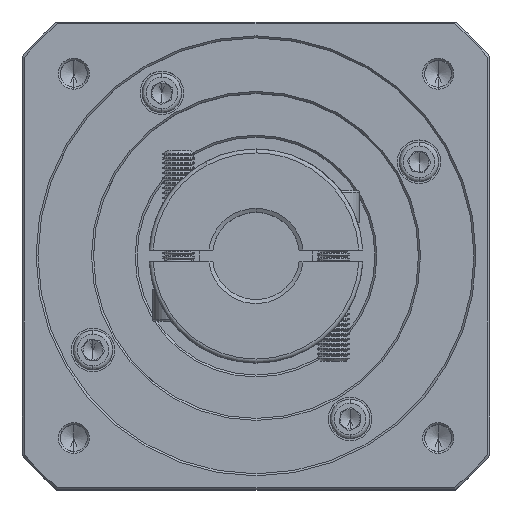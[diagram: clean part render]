
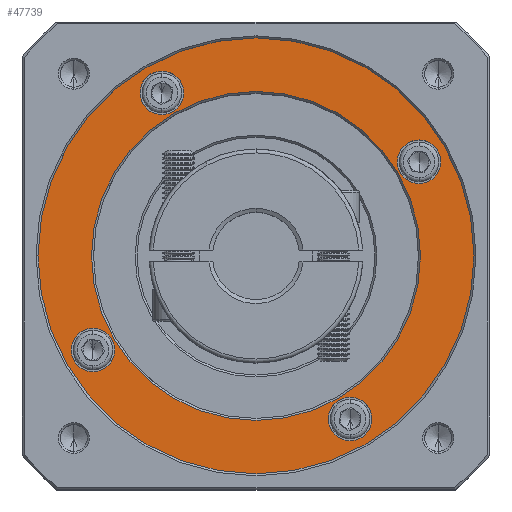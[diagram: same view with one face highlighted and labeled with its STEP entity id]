
A CAD part, top view. The second image highlights one B-rep face of the part: STEP entity #47739.
In plain terms, the highlighted planar face has unit normal (0, 0, 1).
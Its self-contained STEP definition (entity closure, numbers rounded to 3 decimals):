
#1832 = VERTEX_POINT ( 'NONE', #127657 ) ;
#1885 = CIRCLE ( 'NONE', #11369, 41.5 ) ;
#1896 = EDGE_CURVE ( 'NONE', #49550, #48030, #40612, .T. ) ;
#3053 = ORIENTED_EDGE ( 'NONE', *, *, #115229, .T. ) ;
#3126 = DIRECTION ( 'NONE',  ( 0., 1., 0. ) ) ;
#7497 = CARTESIAN_POINT ( 'NONE',  ( 16.365, 46.224, 8.74 ) ) ;
#9457 = DIRECTION ( 'NONE',  ( 1., 0., 0. ) ) ;
#9610 = FACE_BOUND ( 'NONE', #57726, .T. ) ;
#9915 = DIRECTION ( 'NONE',  ( 0., 0., -1. ) ) ;
#11369 = AXIS2_PLACEMENT_3D ( 'NONE', #131863, #27966, #70354 ) ;
#12692 = DIRECTION ( 'NONE',  ( 0., 1., 0. ) ) ;
#16357 = DIRECTION ( 'NONE',  ( 0., 0., -1. ) ) ;
#16807 = CARTESIAN_POINT ( 'NONE',  ( 98.637, 82.724, 8.74 ) ) ;
#17985 = DIRECTION ( 'NONE',  ( 0., 0., -1. ) ) ;
#20602 = EDGE_LOOP ( 'NONE', ( #28987, #3053 ) ) ;
#22153 = CIRCLE ( 'NONE', #113852, 5.5 ) ;
#23383 = DIRECTION ( 'NONE',  ( 0., 0., -1. ) ) ;
#26486 = DIRECTION ( 'NONE',  ( 0., 0., 1. ) ) ;
#27966 = DIRECTION ( 'NONE',  ( 0., 0., -1. ) ) ;
#28395 = EDGE_CURVE ( 'NONE', #74007, #100775, #76260, .T. ) ;
#28616 = EDGE_CURVE ( 'NONE', #120097, #98239, #29553, .T. ) ;
#28987 = ORIENTED_EDGE ( 'NONE', *, *, #84632, .T. ) ;
#29274 = DIRECTION ( 'NONE',  ( 0., 0., 1. ) ) ;
#29553 = CIRCLE ( 'NONE', #83461, 5.5 ) ;
#29643 = CARTESIAN_POINT ( 'NONE',  ( 57.501, 64.474, 8.74 ) ) ;
#30207 = CARTESIAN_POINT ( 'NONE',  ( 81.251, 23.338, 8.74 ) ) ;
#31239 = ORIENTED_EDGE ( 'NONE', *, *, #28616, .T. ) ;
#31730 = AXIS2_PLACEMENT_3D ( 'NONE', #129102, #26486, #57190 ) ;
#32342 = EDGE_CURVE ( 'NONE', #100775, #74007, #100997, .T. ) ;
#35321 = FACE_OUTER_BOUND ( 'NONE', #20602, .T. ) ;
#36903 = FACE_BOUND ( 'NONE', #82284, .T. ) ;
#37004 = DIRECTION ( 'NONE',  ( 0., 1., 0. ) ) ;
#38889 = ORIENTED_EDGE ( 'NONE', *, *, #1896, .T. ) ;
#38930 = EDGE_CURVE ( 'NONE', #45258, #60037, #58104, .T. ) ;
#39195 = DIRECTION ( 'NONE',  ( 0., 1., 0. ) ) ;
#40612 = CIRCLE ( 'NONE', #117518, 5.5 ) ;
#42281 = EDGE_LOOP ( 'NONE', ( #96725, #38889 ) ) ;
#42601 = CARTESIAN_POINT ( 'NONE',  ( 57.501, 119.474, 8.74 ) ) ;
#43319 = DIRECTION ( 'NONE',  ( 0., 1., 0. ) ) ;
#43459 = CARTESIAN_POINT ( 'NONE',  ( 81.251, 17.838, 8.74 ) ) ;
#45258 = VERTEX_POINT ( 'NONE', #133411 ) ;
#45897 = CIRCLE ( 'NONE', #31730, 55. ) ;
#47160 = CARTESIAN_POINT ( 'NONE',  ( 16.365, 40.724, 8.74 ) ) ;
#47739 = ADVANCED_FACE ( 'NONE', ( #35321, #9610, #73958, #88416, #72453, #36903 ), #73293, .T. ) ;
#48030 = VERTEX_POINT ( 'NONE', #7497 ) ;
#49550 = VERTEX_POINT ( 'NONE', #125628 ) ;
#51766 = ORIENTED_EDGE ( 'NONE', *, *, #102289, .T. ) ;
#53607 = CARTESIAN_POINT ( 'NONE',  ( 33.751, 105.611, 8.74 ) ) ;
#53934 = CARTESIAN_POINT ( 'NONE',  ( 57.501, 64.474, 8.74 ) ) ;
#57190 = DIRECTION ( 'NONE',  ( 0., 1., 0. ) ) ;
#57726 = EDGE_LOOP ( 'NONE', ( #87504, #69693 ) ) ;
#58104 = CIRCLE ( 'NONE', #131020, 41.5 ) ;
#60037 = VERTEX_POINT ( 'NONE', #74129 ) ;
#60101 = ORIENTED_EDGE ( 'NONE', *, *, #131149, .T. ) ;
#64367 = ORIENTED_EDGE ( 'NONE', *, *, #32342, .T. ) ;
#65363 = DIRECTION ( 'NONE',  ( 0., 0., -1. ) ) ;
#65724 = AXIS2_PLACEMENT_3D ( 'NONE', #79585, #17985, #100289 ) ;
#68751 = DIRECTION ( 'NONE',  ( 0., 1., 0. ) ) ;
#68768 = CARTESIAN_POINT ( 'NONE',  ( 33.751, 100.111, 8.74 ) ) ;
#69693 = ORIENTED_EDGE ( 'NONE', *, *, #116285, .T. ) ;
#70354 = DIRECTION ( 'NONE',  ( 1., 0., 0. ) ) ;
#72453 = FACE_BOUND ( 'NONE', #42281, .T. ) ;
#73293 = PLANE ( 'NONE',  #115813 ) ;
#73460 = CARTESIAN_POINT ( 'NONE',  ( 81.251, 28.838, 8.74 ) ) ;
#73958 = FACE_BOUND ( 'NONE', #116419, .T. ) ;
#74007 = VERTEX_POINT ( 'NONE', #87862 ) ;
#74129 = CARTESIAN_POINT ( 'NONE',  ( 16.001, 64.474, 8.74 ) ) ;
#74740 = EDGE_CURVE ( 'NONE', #48030, #49550, #132363, .T. ) ;
#75594 = CIRCLE ( 'NONE', #119654, 55. ) ;
#76260 = CIRCLE ( 'NONE', #113548, 5.5 ) ;
#79385 = DIRECTION ( 'NONE',  ( 0., 0., -1. ) ) ;
#79585 = CARTESIAN_POINT ( 'NONE',  ( 16.365, 40.724, 8.74 ) ) ;
#79824 = DIRECTION ( 'NONE',  ( 0., 1., 0. ) ) ;
#81534 = DIRECTION ( 'NONE',  ( 0., 0., -1. ) ) ;
#81575 = CARTESIAN_POINT ( 'NONE',  ( 33.751, 105.611, 8.74 ) ) ;
#81629 = VERTEX_POINT ( 'NONE', #42601 ) ;
#82284 = EDGE_LOOP ( 'NONE', ( #31239, #60101 ) ) ;
#83461 = AXIS2_PLACEMENT_3D ( 'NONE', #133221, #23383, #12692 ) ;
#84632 = EDGE_CURVE ( 'NONE', #81629, #1832, #75594, .T. ) ;
#87353 = AXIS2_PLACEMENT_3D ( 'NONE', #30207, #81534, #43319 ) ;
#87504 = ORIENTED_EDGE ( 'NONE', *, *, #38930, .T. ) ;
#87862 = CARTESIAN_POINT ( 'NONE',  ( 33.751, 111.111, 8.74 ) ) ;
#88416 = FACE_BOUND ( 'NONE', #90746, .T. ) ;
#90638 = CARTESIAN_POINT ( 'NONE',  ( 98.637, 88.224, 8.74 ) ) ;
#90746 = EDGE_LOOP ( 'NONE', ( #101122, #51766 ) ) ;
#96725 = ORIENTED_EDGE ( 'NONE', *, *, #74740, .T. ) ;
#98239 = VERTEX_POINT ( 'NONE', #43459 ) ;
#98837 = DIRECTION ( 'NONE',  ( 0., 0., -1. ) ) ;
#100289 = DIRECTION ( 'NONE',  ( 0., 1., 0. ) ) ;
#100775 = VERTEX_POINT ( 'NONE', #68768 ) ;
#100997 = CIRCLE ( 'NONE', #110587, 5.5 ) ;
#101122 = ORIENTED_EDGE ( 'NONE', *, *, #124988, .T. ) ;
#102289 = EDGE_CURVE ( 'NONE', #120741, #127660, #22153, .T. ) ;
#110587 = AXIS2_PLACEMENT_3D ( 'NONE', #53607, #125964, #125526 ) ;
#113283 = CARTESIAN_POINT ( 'NONE',  ( 98.637, 93.724, 8.74 ) ) ;
#113548 = AXIS2_PLACEMENT_3D ( 'NONE', #81575, #16357, #37004 ) ;
#113852 = AXIS2_PLACEMENT_3D ( 'NONE', #126488, #65363, #128257 ) ;
#115229 = EDGE_CURVE ( 'NONE', #1832, #81629, #45897, .T. ) ;
#115813 = AXIS2_PLACEMENT_3D ( 'NONE', #53934, #115914, #3126 ) ;
#115914 = DIRECTION ( 'NONE',  ( 0., 0., 1. ) ) ;
#116285 = EDGE_CURVE ( 'NONE', #60037, #45258, #1885, .T. ) ;
#116419 = EDGE_LOOP ( 'NONE', ( #123229, #64367 ) ) ;
#117518 = AXIS2_PLACEMENT_3D ( 'NONE', #47160, #98837, #68751 ) ;
#119654 = AXIS2_PLACEMENT_3D ( 'NONE', #132695, #29274, #39195 ) ;
#120097 = VERTEX_POINT ( 'NONE', #73460 ) ;
#120741 = VERTEX_POINT ( 'NONE', #16807 ) ;
#123229 = ORIENTED_EDGE ( 'NONE', *, *, #28395, .T. ) ;
#124716 = CIRCLE ( 'NONE', #125385, 5.5 ) ;
#124988 = EDGE_CURVE ( 'NONE', #127660, #120741, #124716, .T. ) ;
#125385 = AXIS2_PLACEMENT_3D ( 'NONE', #90638, #79385, #79824 ) ;
#125526 = DIRECTION ( 'NONE',  ( 0., 1., 0. ) ) ;
#125628 = CARTESIAN_POINT ( 'NONE',  ( 16.365, 35.224, 8.74 ) ) ;
#125964 = DIRECTION ( 'NONE',  ( 0., 0., -1. ) ) ;
#126488 = CARTESIAN_POINT ( 'NONE',  ( 98.637, 88.224, 8.74 ) ) ;
#127657 = CARTESIAN_POINT ( 'NONE',  ( 57.501, 9.474, 8.74 ) ) ;
#127660 = VERTEX_POINT ( 'NONE', #113283 ) ;
#128257 = DIRECTION ( 'NONE',  ( 0., 1., 0. ) ) ;
#129102 = CARTESIAN_POINT ( 'NONE',  ( 57.501, 64.474, 8.74 ) ) ;
#130032 = CIRCLE ( 'NONE', #87353, 5.5 ) ;
#131020 = AXIS2_PLACEMENT_3D ( 'NONE', #29643, #9915, #9457 ) ;
#131149 = EDGE_CURVE ( 'NONE', #98239, #120097, #130032, .T. ) ;
#131863 = CARTESIAN_POINT ( 'NONE',  ( 57.501, 64.474, 8.74 ) ) ;
#132363 = CIRCLE ( 'NONE', #65724, 5.5 ) ;
#132695 = CARTESIAN_POINT ( 'NONE',  ( 57.501, 64.474, 8.74 ) ) ;
#133221 = CARTESIAN_POINT ( 'NONE',  ( 81.251, 23.338, 8.74 ) ) ;
#133411 = CARTESIAN_POINT ( 'NONE',  ( 99.001, 64.474, 8.74 ) ) ;
